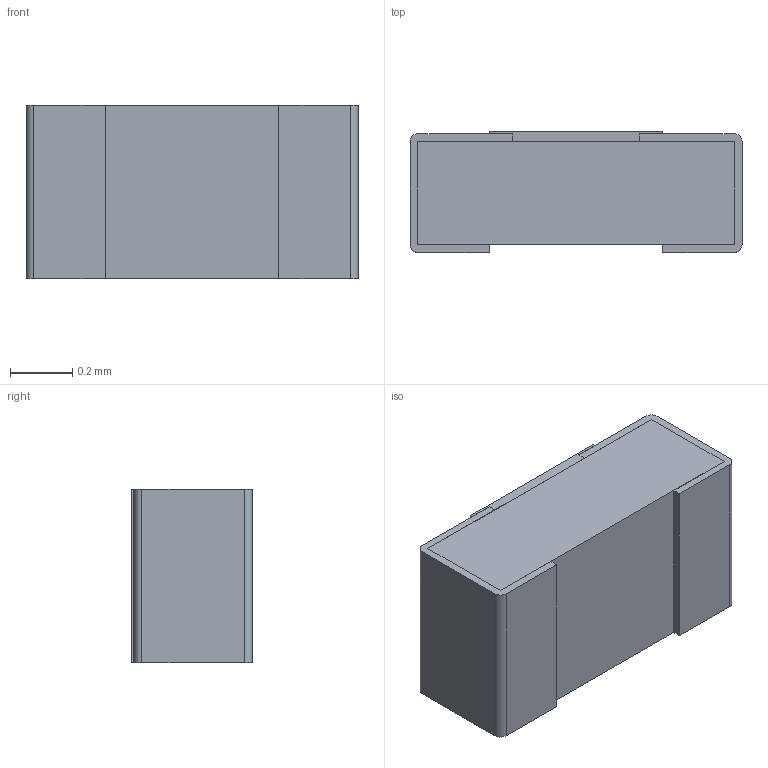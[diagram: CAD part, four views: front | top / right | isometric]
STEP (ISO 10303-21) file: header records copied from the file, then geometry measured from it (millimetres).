
FILE_DESCRIPTION(/* description */ (''),/* implementation_level */ '2;1');
FILE_NAME(/* name */ 'C:\Users\Public\Documents\Autodesk\Inventor LT 2014\Workspace\Vishay\STEP Files\PTN0402.stp',/* time_stamp */ '2020-01-08T14:53:20-06:00',/* author */ ('Neil'),/* organization */ (''),/* preprocessor_version */ 'ST-DEVELOPER v15.2',/* originating_system */ 'Autodesk Inventor LT ',/* authorisation */ '');
FILE_SCHEMA (('AUTOMOTIVE_DESIGN { 1 0 10303 214 3 1 1 }'));
Length unit declared in the file: inch
Products named in the file (1): PTN0402
Bounding box: 1.07 x 0.39 x 0.56 mm (x, y, z)
Volume: 0.2 mm3; surface area: 5.4 mm2
Topology: 5 solids, 5 shells, 66 faces, 168 edges, 112 vertices
Faces by surface type: plane 58, cylinder 8
Entity records: 2018 total; most frequent: CARTESIAN_POINT 347, ORIENTED_EDGE 336, DIRECTION 318, EDGE_CURVE 168, LINE 152, VECTOR 152, VERTEX_POINT 112, AXIS2_PLACEMENT_3D 83
